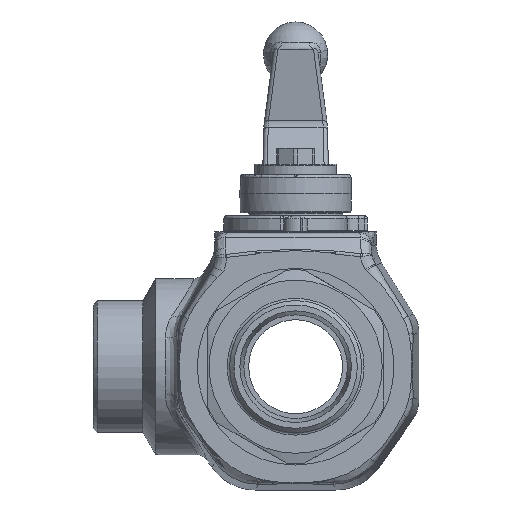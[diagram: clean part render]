
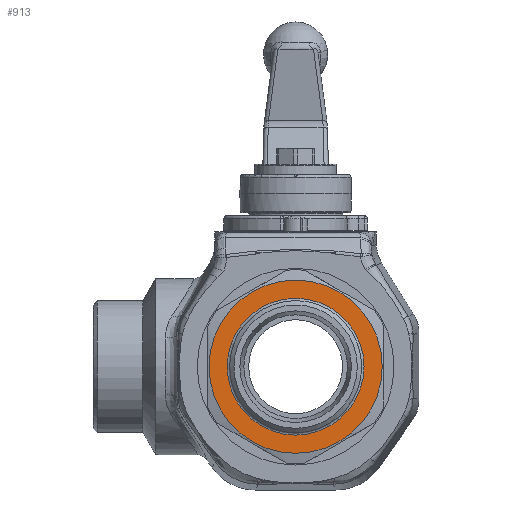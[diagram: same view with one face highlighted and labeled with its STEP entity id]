
A CAD part, front view. The second image highlights one B-rep face of the part: STEP entity #913.
In plain terms, the highlighted planar face has unit normal (0, -1, 0) as drawn and (0, 1, 0) by its records, which use the part's own axes.
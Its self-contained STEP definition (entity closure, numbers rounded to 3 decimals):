
#913 = ADVANCED_FACE( '', ( #2065, #2066 ), #2067, .F. );
#2065 = FACE_BOUND( '', #4530, .T. );
#2066 = FACE_OUTER_BOUND( '', #4531, .T. );
#2067 = PLANE( '', #4532 );
#4530 = EDGE_LOOP( '', ( #9186 ) );
#4531 = EDGE_LOOP( '', ( #9187 ) );
#4532 = AXIS2_PLACEMENT_3D( '', #9188, #9189, #9190 );
#9186 = ORIENTED_EDGE( '', *, *, #12423, .T. );
#9187 = ORIENTED_EDGE( '', *, *, #12523, .F. );
#9188 = CARTESIAN_POINT( '', ( 0., 7.4, 0. ) );
#9189 = DIRECTION( '', ( 0., -1., 0. ) );
#9190 = DIRECTION( '', ( 0., 0., -1. ) );
#12423 = EDGE_CURVE( '', #14310, #14310, #14311, .T. );
#12523 = EDGE_CURVE( '', #14472, #14472, #14473, .T. );
#14310 = VERTEX_POINT( '', #18075 );
#14311 = CIRCLE( '', #18076, 23.3 );
#14472 = VERTEX_POINT( '', #18717 );
#14473 = CIRCLE( '', #18718, 29.5 );
#18075 = CARTESIAN_POINT( '', ( 0., 7.4, -23.3 ) );
#18076 = AXIS2_PLACEMENT_3D( '', #23332, #23333, #23334 );
#18717 = CARTESIAN_POINT( '', ( 29.5, 7.4, 0. ) );
#18718 = AXIS2_PLACEMENT_3D( '', #23480, #23481, #23482 );
#23332 = CARTESIAN_POINT( '', ( 0., 7.4, 0. ) );
#23333 = DIRECTION( '', ( 0., -1., 0. ) );
#23334 = DIRECTION( '', ( 0., 0., -1. ) );
#23480 = CARTESIAN_POINT( '', ( 0., 7.4, 0. ) );
#23481 = DIRECTION( '', ( 0., -1., 0. ) );
#23482 = DIRECTION( '', ( 1., 0., 0. ) );
